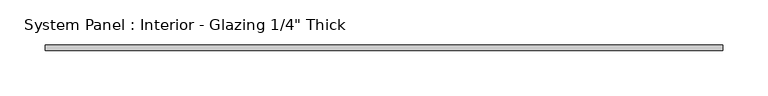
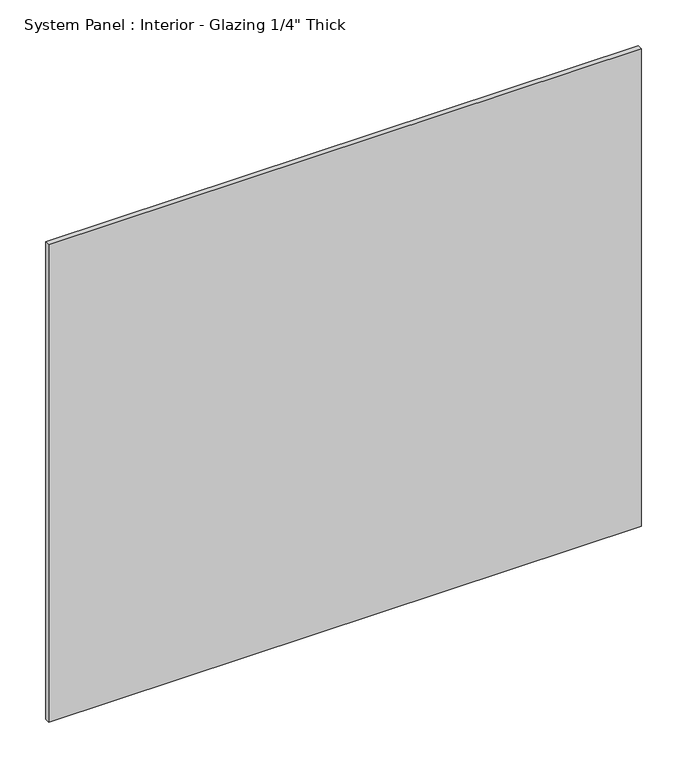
"""IFC4 building model written with IfcOpenShell, lengths in millimetres: plate geometry."""

from ifc_helpers import new_model, si_unit, origin, origin_with_axes, place, context, project, spatial, polyline, outline, extrude, source, transform, mapped, element, save


def plate_ccda104d(model_context):
    return source(origin(), model_context, "Body", "SweptSolid", [
        extrude(outline(polyline([(374.65, -3.175), (-374.65, -3.175), (-374.65, 3.175), (374.65, 3.175), (374.65, -3.175)])), origin_with_axes(), (0.0, 0.0, 1.0), 638.3411435),
    ])


if __name__ == "__main__":
    model = new_model("IFC4")
    model_context = context("Model", 3, world=origin())
    ifc_project = project(units=[si_unit("LENGTHUNIT", "METRE", prefix="MILLI")], contexts=[model_context])
    site = spatial("IfcSite", under=ifc_project)
    building = spatial("IfcBuilding", under=site)
    placement = place(None, origin())
    plate_shape = plate_ccda104d(model_context)
    element("IfcPlate", 1, ObjectType="System Panel : Interior - Glazing 1/4\" Thick", at=placement, inside=building, context=model_context, shape_type="MappedRepresentation", body=[
        mapped(plate_shape, transform((0.0, 0.0, 0.0), x_axis=(1.0, 0.0, 0.0), y_axis=(0.0, 1.0, 0.0), z_axis=(0.0, 0.0, 1.0))),
    ])
    save(model, "model.ifc")
